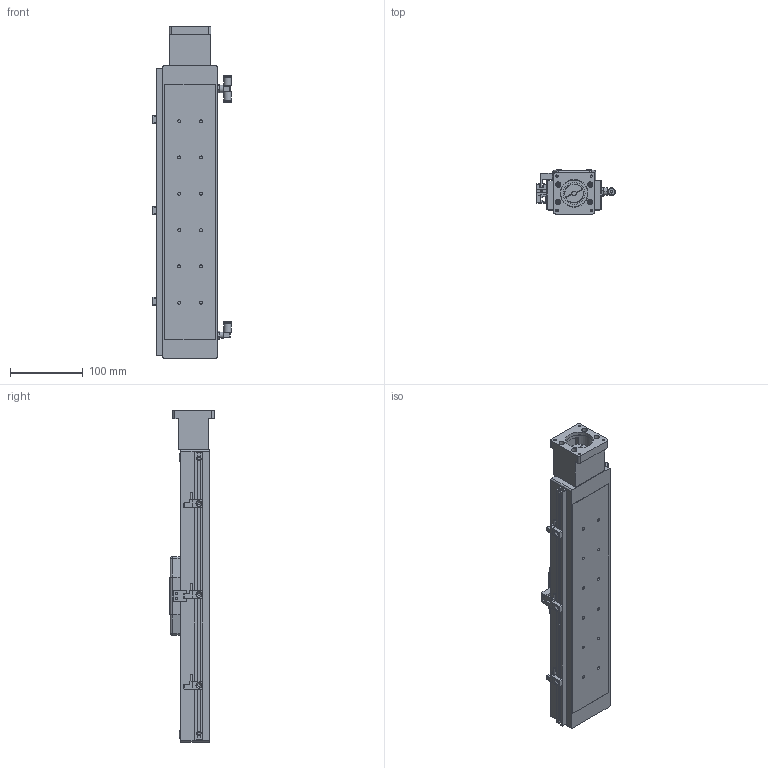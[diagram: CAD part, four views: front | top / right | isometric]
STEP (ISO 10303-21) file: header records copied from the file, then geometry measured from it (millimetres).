
FILE_DESCRIPTION((''),'2;1');
FILE_NAME('E:\catalogue and flyer\actuator catalogue 2015\dwg fr wg\UIA076CR9DC\UIA076CR9DC-stp file 05May16\UIA076CR9DC-250-R12_ _-M23-P13-C10-S.stp','2016-05-05T12:04:33',('h029'),(''),'Autodesk Inventor 11','Autodesk Inventor 11','');
FILE_SCHEMA(('AUTOMOTIVE_DESIGN { 1 0 10303 214 1 1 1 1 }'));
Length unit declared in the file: millimetre
Products named in the file (14): UIA076CR9DC-250; UIA076CR9DC-body; carriage-076CR; SOH25C; side 2; side 1; centre piece; 26-100 0071 sensor flag; GWL4-M5; GWT4-M5; 26-100 0110-M23; Sensor rail; Sensor Bracket ; Sensor
Assembly tree (17 placements, depth 3):
  UIA076CR9DC-250
    UIA076CR9DC-body
    carriage-076CR
    SOH25C
      side 2
      side 1
      centre piece
    26-100 0071 sensor flag
    GWL4-M5
    GWT4-M5
    26-100 0110-M23
    Sensor rail
    Sensor Bracket   x3
    Sensor  x3
Bounding box: 108.1 x 61 x 457 mm (x, y, z)
Volume: 1413341.9 mm3; surface area: 195464.4 mm2
Topology: 18 solids, 18 shells, 681 faces, 1770 edges, 1143 vertices
Faces by surface type: plane 355, cylinder 152, bspline 148, sphere 16, cone 10
Full cylindrical faces by diameter (mm): 2.459 x4, 2.5 x3, 8 x2, 25.5 x3, 30 x1, 37 x1, 38.1 x1
Entity records: 19313 total; most frequent: CARTESIAN_POINT 5527, DIRECTION 2749, ORIENTED_EDGE 2658, EDGE_CURVE 1329, AXIS2_PLACEMENT_3D 970, VERTEX_POINT 913, VECTOR 809, LINE 809
